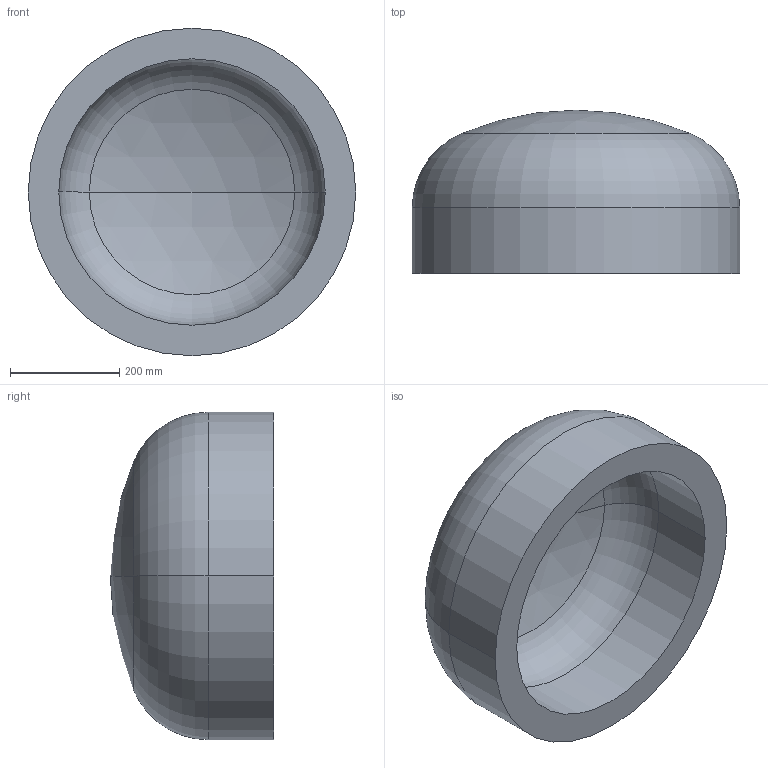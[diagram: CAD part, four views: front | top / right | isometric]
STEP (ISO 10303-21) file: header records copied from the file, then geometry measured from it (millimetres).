
FILE_DESCRIPTION (( 'STEP AP203' ), '1' );
FILE_NAME ('DIN 28013 Korbbogenform_-_Boden DIN 28013 - 600 x 120 - I - s=56.step', '2016-07-01T08:01:52', ( '' ), ( '' ), 'SwSTEP 2.0', 'SolidWorks 2013', '' );
FILE_SCHEMA (( 'CONFIG_CONTROL_DESIGN' ));
Length unit declared in the file: millimetre
Products named in the file (1): DIN 28013 Korbbogenform_-_Boden DIN 28013 - 600 x 120 - I - s=56
Bounding box: 600 x 299.01 x 600 mm (x, y, z)
Volume: 30993906.5 mm3; surface area: 1209198.6 mm2
Topology: 1 solids, 1 shells, 13 faces, 24 edges, 14 vertices
Faces by surface type: torus 4, cylinder 4, sphere 4, plane 1
Entity records: 407 total; most frequent: DIRECTION 72, CARTESIAN_POINT 52, ORIENTED_EDGE 48, AXIS2_PLACEMENT_3D 34, EDGE_CURVE 24, CIRCLE 20, VERTEX_POINT 14, EDGE_LOOP 14
